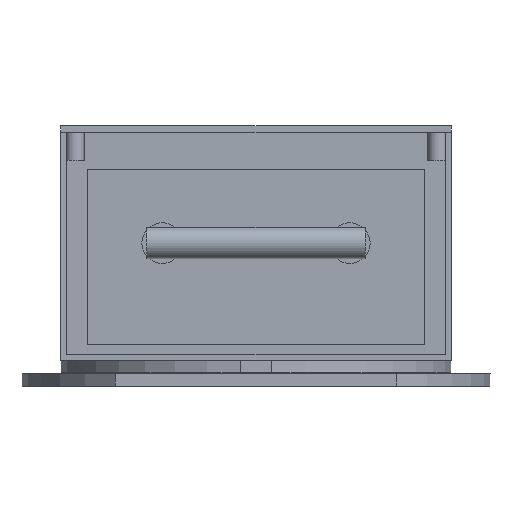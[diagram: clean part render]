
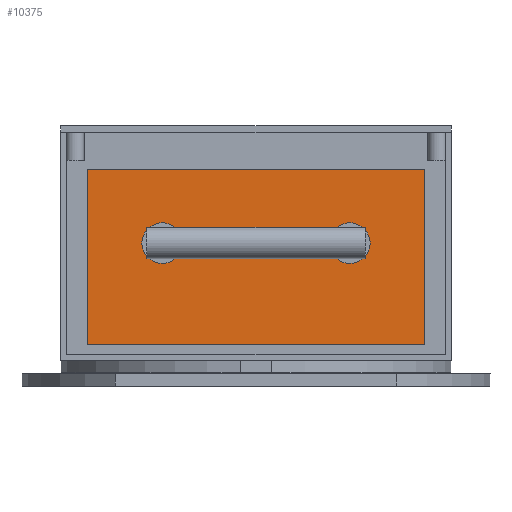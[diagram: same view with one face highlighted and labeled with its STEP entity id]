
A CAD part, front view. The second image highlights one B-rep face of the part: STEP entity #10375.
In plain terms, the highlighted planar face has unit normal (0, -1, 0).
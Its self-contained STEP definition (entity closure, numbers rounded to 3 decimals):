
#9515 = EDGE_CURVE('',#9516,#9518,#9520,.T.);
#9516 = VERTEX_POINT('',#9517);
#9517 = CARTESIAN_POINT('',(-108.,-142.,26.5));
#9518 = VERTEX_POINT('',#9519);
#9519 = CARTESIAN_POINT('',(-108.,-142.,138.5));
#9520 = SURFACE_CURVE('',#9521,(#9525,#9537),.PCURVE_S1.);
#9521 = LINE('',#9522,#9523);
#9522 = CARTESIAN_POINT('',(-108.,-142.,26.5));
#9523 = VECTOR('',#9524,1.);
#9524 = DIRECTION('',(0.,0.,1.));
#9525 = PCURVE('',#9526,#9531);
#9526 = PLANE('',#9527);
#9527 = AXIS2_PLACEMENT_3D('',#9528,#9529,#9530);
#9528 = CARTESIAN_POINT('',(-108.,-142.,26.5));
#9529 = DIRECTION('',(1.,0.,0.));
#9530 = DIRECTION('',(0.,0.,1.));
#9531 = DEFINITIONAL_REPRESENTATION('',(#9532),#9536);
#9532 = LINE('',#9533,#9534);
#9533 = CARTESIAN_POINT('',(0.,0.));
#9534 = VECTOR('',#9535,1.);
#9535 = DIRECTION('',(1.,0.));
#9536 = ( GEOMETRIC_REPRESENTATION_CONTEXT(2) 
PARAMETRIC_REPRESENTATION_CONTEXT() REPRESENTATION_CONTEXT('2D SPACE',''
  ) );
#9537 = PCURVE('',#9538,#9543);
#9538 = PLANE('',#9539);
#9539 = AXIS2_PLACEMENT_3D('',#9540,#9541,#9542);
#9540 = CARTESIAN_POINT('',(-108.,-142.,26.5));
#9541 = DIRECTION('',(0.,1.,0.));
#9542 = DIRECTION('',(0.,-0.,1.));
#9543 = DEFINITIONAL_REPRESENTATION('',(#9544),#9548);
#9544 = LINE('',#9545,#9546);
#9545 = CARTESIAN_POINT('',(0.,0.));
#9546 = VECTOR('',#9547,1.);
#9547 = DIRECTION('',(1.,0.));
#9548 = ( GEOMETRIC_REPRESENTATION_CONTEXT(2) 
PARAMETRIC_REPRESENTATION_CONTEXT() REPRESENTATION_CONTEXT('2D SPACE',''
  ) );
#9566 = PLANE('',#9567);
#9567 = AXIS2_PLACEMENT_3D('',#9568,#9569,#9570);
#9568 = CARTESIAN_POINT('',(-108.,-142.,26.5));
#9569 = DIRECTION('',(0.,0.,1.));
#9570 = DIRECTION('',(1.,0.,-0.));
#9620 = PLANE('',#9621);
#9621 = AXIS2_PLACEMENT_3D('',#9622,#9623,#9624);
#9622 = CARTESIAN_POINT('',(-108.,-142.,138.5));
#9623 = DIRECTION('',(0.,0.,1.));
#9624 = DIRECTION('',(1.,0.,-0.));
#10375 = ADVANCED_FACE('',(#10376,#10451,#10482),#9538,.F.);
#10376 = FACE_BOUND('',#10377,.F.);
#10377 = EDGE_LOOP('',(#10378,#10401,#10402,#10425));
#10378 = ORIENTED_EDGE('',*,*,#10379,.F.);
#10379 = EDGE_CURVE('',#9516,#10380,#10382,.T.);
#10380 = VERTEX_POINT('',#10381);
#10381 = CARTESIAN_POINT('',(108.,-142.,26.5));
#10382 = SURFACE_CURVE('',#10383,(#10387,#10394),.PCURVE_S1.);
#10383 = LINE('',#10384,#10385);
#10384 = CARTESIAN_POINT('',(-108.,-142.,26.5));
#10385 = VECTOR('',#10386,1.);
#10386 = DIRECTION('',(1.,0.,0.));
#10387 = PCURVE('',#9538,#10388);
#10388 = DEFINITIONAL_REPRESENTATION('',(#10389),#10393);
#10389 = LINE('',#10390,#10391);
#10390 = CARTESIAN_POINT('',(0.,0.));
#10391 = VECTOR('',#10392,1.);
#10392 = DIRECTION('',(0.,1.));
#10393 = ( GEOMETRIC_REPRESENTATION_CONTEXT(2) 
PARAMETRIC_REPRESENTATION_CONTEXT() REPRESENTATION_CONTEXT('2D SPACE',''
  ) );
#10394 = PCURVE('',#9566,#10395);
#10395 = DEFINITIONAL_REPRESENTATION('',(#10396),#10400);
#10396 = LINE('',#10397,#10398);
#10397 = CARTESIAN_POINT('',(0.,0.));
#10398 = VECTOR('',#10399,1.);
#10399 = DIRECTION('',(1.,0.));
#10400 = ( GEOMETRIC_REPRESENTATION_CONTEXT(2) 
PARAMETRIC_REPRESENTATION_CONTEXT() REPRESENTATION_CONTEXT('2D SPACE',''
  ) );
#10401 = ORIENTED_EDGE('',*,*,#9515,.T.);
#10402 = ORIENTED_EDGE('',*,*,#10403,.T.);
#10403 = EDGE_CURVE('',#9518,#10404,#10406,.T.);
#10404 = VERTEX_POINT('',#10405);
#10405 = CARTESIAN_POINT('',(108.,-142.,138.5));
#10406 = SURFACE_CURVE('',#10407,(#10411,#10418),.PCURVE_S1.);
#10407 = LINE('',#10408,#10409);
#10408 = CARTESIAN_POINT('',(-108.,-142.,138.5));
#10409 = VECTOR('',#10410,1.);
#10410 = DIRECTION('',(1.,0.,0.));
#10411 = PCURVE('',#9538,#10412);
#10412 = DEFINITIONAL_REPRESENTATION('',(#10413),#10417);
#10413 = LINE('',#10414,#10415);
#10414 = CARTESIAN_POINT('',(112.,0.));
#10415 = VECTOR('',#10416,1.);
#10416 = DIRECTION('',(0.,1.));
#10417 = ( GEOMETRIC_REPRESENTATION_CONTEXT(2) 
PARAMETRIC_REPRESENTATION_CONTEXT() REPRESENTATION_CONTEXT('2D SPACE',''
  ) );
#10418 = PCURVE('',#9620,#10419);
#10419 = DEFINITIONAL_REPRESENTATION('',(#10420),#10424);
#10420 = LINE('',#10421,#10422);
#10421 = CARTESIAN_POINT('',(0.,0.));
#10422 = VECTOR('',#10423,1.);
#10423 = DIRECTION('',(1.,0.));
#10424 = ( GEOMETRIC_REPRESENTATION_CONTEXT(2) 
PARAMETRIC_REPRESENTATION_CONTEXT() REPRESENTATION_CONTEXT('2D SPACE',''
  ) );
#10425 = ORIENTED_EDGE('',*,*,#10426,.F.);
#10426 = EDGE_CURVE('',#10380,#10404,#10427,.T.);
#10427 = SURFACE_CURVE('',#10428,(#10432,#10439),.PCURVE_S1.);
#10428 = LINE('',#10429,#10430);
#10429 = CARTESIAN_POINT('',(108.,-142.,26.5));
#10430 = VECTOR('',#10431,1.);
#10431 = DIRECTION('',(0.,0.,1.));
#10432 = PCURVE('',#9538,#10433);
#10433 = DEFINITIONAL_REPRESENTATION('',(#10434),#10438);
#10434 = LINE('',#10435,#10436);
#10435 = CARTESIAN_POINT('',(0.,216.));
#10436 = VECTOR('',#10437,1.);
#10437 = DIRECTION('',(1.,0.));
#10438 = ( GEOMETRIC_REPRESENTATION_CONTEXT(2) 
PARAMETRIC_REPRESENTATION_CONTEXT() REPRESENTATION_CONTEXT('2D SPACE',''
  ) );
#10439 = PCURVE('',#10440,#10445);
#10440 = PLANE('',#10441);
#10441 = AXIS2_PLACEMENT_3D('',#10442,#10443,#10444);
#10442 = CARTESIAN_POINT('',(108.,-142.,26.5));
#10443 = DIRECTION('',(1.,0.,0.));
#10444 = DIRECTION('',(0.,0.,1.));
#10445 = DEFINITIONAL_REPRESENTATION('',(#10446),#10450);
#10446 = LINE('',#10447,#10448);
#10447 = CARTESIAN_POINT('',(0.,0.));
#10448 = VECTOR('',#10449,1.);
#10449 = DIRECTION('',(1.,0.));
#10450 = ( GEOMETRIC_REPRESENTATION_CONTEXT(2) 
PARAMETRIC_REPRESENTATION_CONTEXT() REPRESENTATION_CONTEXT('2D SPACE',''
  ) );
#10451 = FACE_BOUND('',#10452,.F.);
#10452 = EDGE_LOOP('',(#10453));
#10453 = ORIENTED_EDGE('',*,*,#10454,.F.);
#10454 = EDGE_CURVE('',#10455,#10455,#10457,.T.);
#10455 = VERTEX_POINT('',#10456);
#10456 = CARTESIAN_POINT('',(-57.75,-142.,91.5));
#10457 = SURFACE_CURVE('',#10458,(#10463,#10470),.PCURVE_S1.);
#10458 = CIRCLE('',#10459,2.25);
#10459 = AXIS2_PLACEMENT_3D('',#10460,#10461,#10462);
#10460 = CARTESIAN_POINT('',(-60.,-142.,91.5));
#10461 = DIRECTION('',(0.,1.,0.));
#10462 = DIRECTION('',(1.,0.,0.));
#10463 = PCURVE('',#9538,#10464);
#10464 = DEFINITIONAL_REPRESENTATION('',(#10465),#10469);
#10465 = CIRCLE('',#10466,2.25);
#10466 = AXIS2_PLACEMENT_2D('',#10467,#10468);
#10467 = CARTESIAN_POINT('',(65.,48.));
#10468 = DIRECTION('',(0.,1.));
#10469 = ( GEOMETRIC_REPRESENTATION_CONTEXT(2) 
PARAMETRIC_REPRESENTATION_CONTEXT() REPRESENTATION_CONTEXT('2D SPACE',''
  ) );
#10470 = PCURVE('',#10471,#10476);
#10471 = CYLINDRICAL_SURFACE('',#10472,2.25);
#10472 = AXIS2_PLACEMENT_3D('',#10473,#10474,#10475);
#10473 = CARTESIAN_POINT('',(-60.,-137.,91.5));
#10474 = DIRECTION('',(-0.,1.,0.));
#10475 = DIRECTION('',(1.,0.,0.));
#10476 = DEFINITIONAL_REPRESENTATION('',(#10477),#10481);
#10477 = LINE('',#10478,#10479);
#10478 = CARTESIAN_POINT('',(0.,-5.));
#10479 = VECTOR('',#10480,1.);
#10480 = DIRECTION('',(1.,-0.));
#10481 = ( GEOMETRIC_REPRESENTATION_CONTEXT(2) 
PARAMETRIC_REPRESENTATION_CONTEXT() REPRESENTATION_CONTEXT('2D SPACE',''
  ) );
#10482 = FACE_BOUND('',#10483,.F.);
#10483 = EDGE_LOOP('',(#10484));
#10484 = ORIENTED_EDGE('',*,*,#10485,.F.);
#10485 = EDGE_CURVE('',#10486,#10486,#10488,.T.);
#10486 = VERTEX_POINT('',#10487);
#10487 = CARTESIAN_POINT('',(62.25,-142.,91.5));
#10488 = SURFACE_CURVE('',#10489,(#10494,#10501),.PCURVE_S1.);
#10489 = CIRCLE('',#10490,2.25);
#10490 = AXIS2_PLACEMENT_3D('',#10491,#10492,#10493);
#10491 = CARTESIAN_POINT('',(60.,-142.,91.5));
#10492 = DIRECTION('',(0.,1.,0.));
#10493 = DIRECTION('',(1.,0.,0.));
#10494 = PCURVE('',#9538,#10495);
#10495 = DEFINITIONAL_REPRESENTATION('',(#10496),#10500);
#10496 = CIRCLE('',#10497,2.25);
#10497 = AXIS2_PLACEMENT_2D('',#10498,#10499);
#10498 = CARTESIAN_POINT('',(65.,168.));
#10499 = DIRECTION('',(0.,1.));
#10500 = ( GEOMETRIC_REPRESENTATION_CONTEXT(2) 
PARAMETRIC_REPRESENTATION_CONTEXT() REPRESENTATION_CONTEXT('2D SPACE',''
  ) );
#10501 = PCURVE('',#10502,#10507);
#10502 = CYLINDRICAL_SURFACE('',#10503,2.25);
#10503 = AXIS2_PLACEMENT_3D('',#10504,#10505,#10506);
#10504 = CARTESIAN_POINT('',(60.,-137.,91.5));
#10505 = DIRECTION('',(-0.,1.,0.));
#10506 = DIRECTION('',(1.,0.,0.));
#10507 = DEFINITIONAL_REPRESENTATION('',(#10508),#10512);
#10508 = LINE('',#10509,#10510);
#10509 = CARTESIAN_POINT('',(0.,-5.));
#10510 = VECTOR('',#10511,1.);
#10511 = DIRECTION('',(1.,-0.));
#10512 = ( GEOMETRIC_REPRESENTATION_CONTEXT(2) 
PARAMETRIC_REPRESENTATION_CONTEXT() REPRESENTATION_CONTEXT('2D SPACE',''
  ) );
